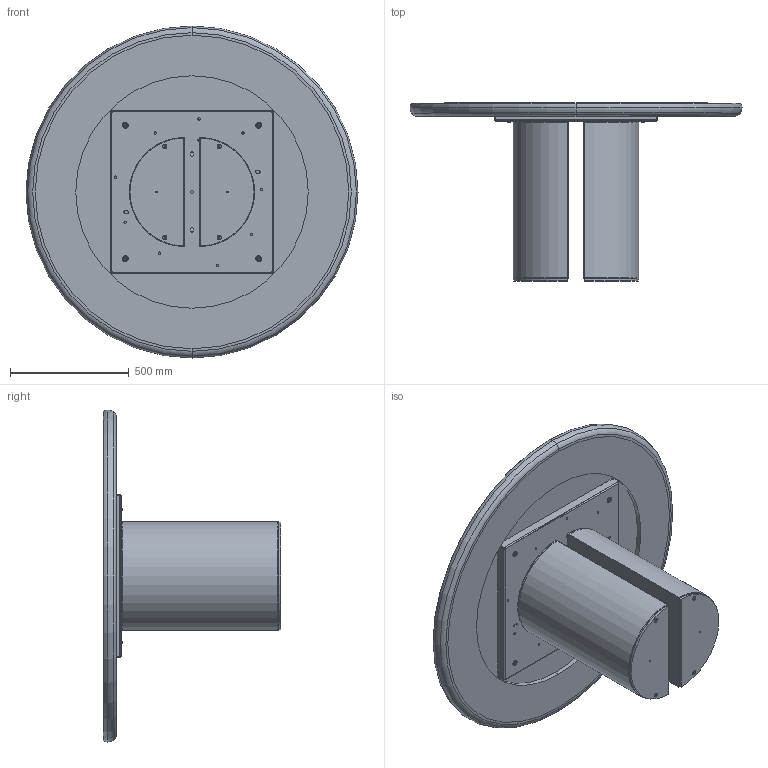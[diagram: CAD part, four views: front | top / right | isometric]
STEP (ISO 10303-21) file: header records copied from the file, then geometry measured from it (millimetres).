
FILE_DESCRIPTION (( 'STEP AP203' ), '1' );
FILE_NAME ('DR06K_Dora_d.140_King.STEP', '2024-07-31T13:39:43', ( '' ), ( '' ), 'SwSTEP 2.0', 'SolidWorks 2022', '' );
FILE_SCHEMA (( 'CONFIG_CONTROL_DESIGN' ));
Length unit declared in the file: millimetre
Products named in the file (15): M8xXXmm_M8x55mm; M8xXXmm_hex_M8X20mm; TTAV0801 TELAIO UNIVERSALE TONDO-PIASTRINA; M8xXXmm_hex_M8X60mm; K92-00-PIANO SOLO CERAMICA D.136.7cm X PIANO C BORDO; PLA000000BAS-00-PLAI BASE GREZZA; ASSIEME PIANO KING_PIANO+CERAMICA DIAM140; W92-01-PIANO KING BORDO Ø140 SAGOMATO LACCATO; PLA000000ZOC-01-PLAI ZOCCOLO DELLA BASE; rondella M8_8X24; Assieme Basamento PLAI_Basamento per tavoli; COLLO TELAIO UNIVERSALE TTAV0801 CON FERRAMENTA_MTG TOP LEGNO-MARMO-KING; TTAV0801-02-TELAIO UNIVERSALE TONDO-VASSOIO; TTAV0801-02-TELAIO UNIVERSALE TONDO; DR06K_Dora_d.140_King
Assembly tree (24 placements, depth 4):
  DR06K_Dora_d.140_King
    Assieme Basamento PLAI_Basamento per tavoli  x2
      PLA000000BAS-00-PLAI BASE GREZZA
      PLA000000ZOC-01-PLAI ZOCCOLO DELLA BASE
      M8xXXmm_hex_M8X60mm
      M8xXXmm_hex_M8X20mm
    COLLO TELAIO UNIVERSALE TTAV0801 CON FERRAMENTA_MTG TOP LEGNO-MARMO-KING
      TTAV0801-02-TELAIO UNIVERSALE TONDO
        TTAV0801-02-TELAIO UNIVERSALE TONDO-VASSOIO
        TTAV0801 TELAIO UNIVERSALE TONDO-PIASTRINA  x4
      rondella M8_8X24  x4
      M8xXXmm_M8x55mm  x4
    ASSIEME PIANO KING_PIANO+CERAMICA DIAM140
      W92-01-PIANO KING BORDO Ø140 SAGOMATO LACCATO
      K92-00-PIANO SOLO CERAMICA D.136.7cm X PIANO C BORDO
Bounding box: 1400 x 750 x 1400 mm (x, y, z)
Volume: 76913177.5 mm3; surface area: 11340780.2 mm2
Topology: 29 solids, 29 shells, 880 faces, 2172 edges, 1340 vertices
Faces by surface type: plane 410, cylinder 316, cone 88, torus 66
Entity records: 17145 total; most frequent: DIRECTION 2788, CARTESIAN_POINT 2659, ORIENTED_EDGE 2526, EDGE_CURVE 1263, AXIS2_PLACEMENT_3D 1013, VERTEX_POINT 798, VECTOR 762, LINE 762
